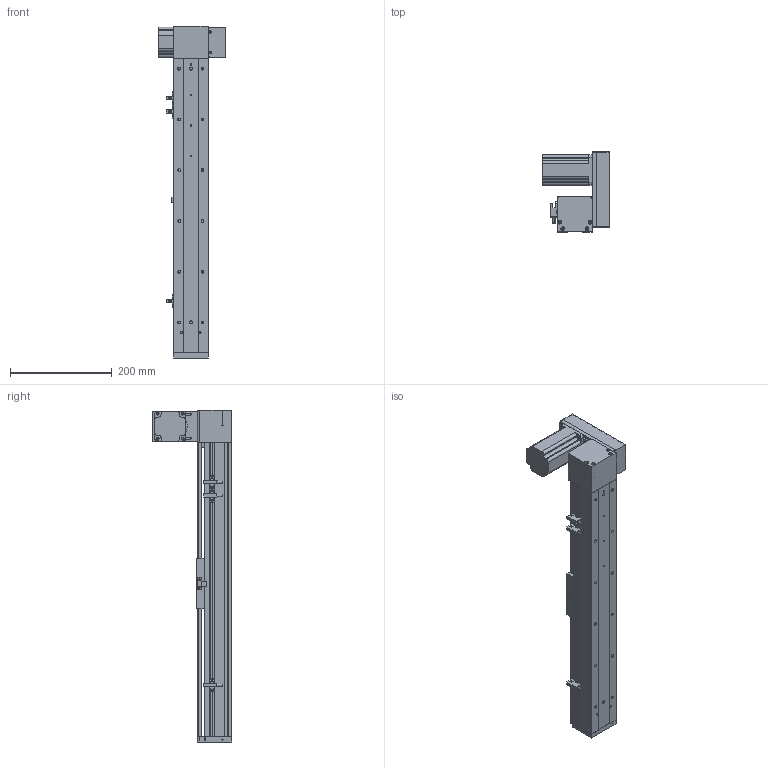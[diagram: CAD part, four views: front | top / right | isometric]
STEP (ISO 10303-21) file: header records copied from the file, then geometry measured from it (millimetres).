
FILE_DESCRIPTION (( 'STEP AP203' ), '1' );
FILE_NAME ('ML68-S400-UL.STEP', '2016-08-04T12:25:38', ( '' ), ( '' ), 'SwSTEP 2.0', 'SolidWorks 2014', '' );
FILE_SCHEMA (( 'CONFIG_CONTROL_DESIGN' ));
Length unit declared in the file: millimetre
Products named in the file (12): ML68-BR傷啣; ML68雄赽釱; ML68傷啣; ML68菁釱^ML68-S400-UL; ML68奻裔^ML68-S400-UL; 換覜ん; QS68左右折电机板罩子; 三协电机MH201N2_預設; 60換覜結え; QS68酘衵殏萇儂啣; ML68-S400-UL; ML68滅鳥啣盓傅輸媼
Assembly tree (13 placements, depth 2):
  ML68-S400-UL
    ML68菁釱^ML68-S400-UL
    ML68奻裔^ML68-S400-UL
    60換覜結え
    ML68-BR傷啣
    換覜ん  x3
    ML68傷啣
    三协电机MH201N2_預設
    ML68雄赽釱
    QS68酘衵殏萇儂啣
    QS68左右折电机板罩子
    ML68滅鳥啣盓傅輸媼
Bounding box: 133.5 x 157 x 654 mm (x, y, z)
Volume: 1431653.2 mm3; surface area: 508660.2 mm2
Topology: 13 solids, 13 shells, 885 faces, 2422 edges, 1539 vertices
Faces by surface type: cylinder 402, plane 391, cone 92
Entity records: 27978 total; most frequent: CARTESIAN_POINT 5278, DIRECTION 4588, ORIENTED_EDGE 4352, EDGE_CURVE 2176, AXIS2_PLACEMENT_3D 1653, VERTEX_POINT 1427, LINE 1282, VECTOR 1282
